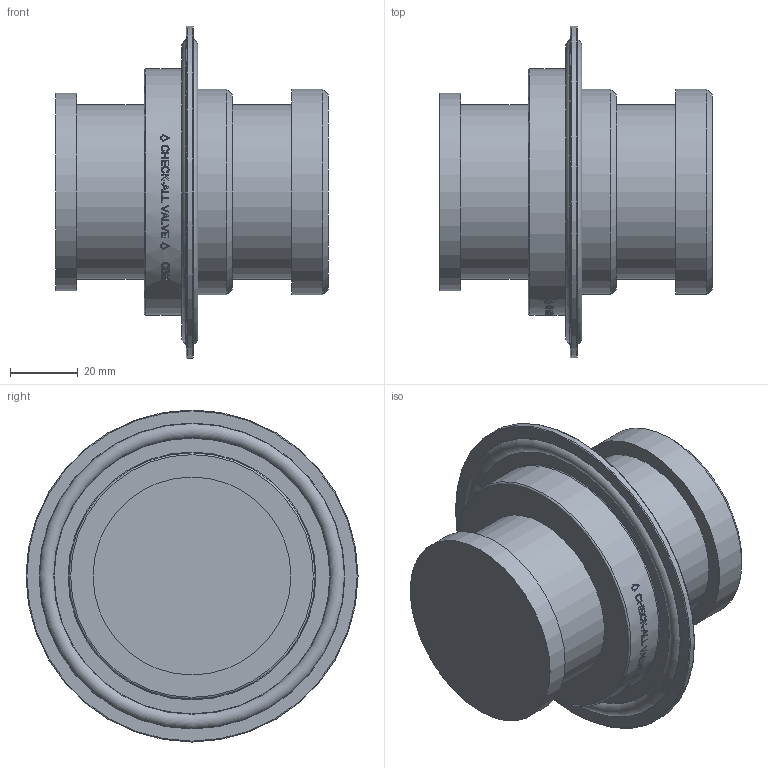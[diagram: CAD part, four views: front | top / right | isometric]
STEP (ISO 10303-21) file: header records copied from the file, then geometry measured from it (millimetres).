
FILE_DESCRIPTION( ( 'Unknown' ), '1' );
FILE_NAME( 'Y:/ENGR/3D Solid Edge Models/CB/Stp/CBM .stp', 'Unknown', ( 'Unknown' ), ( 'Unknown' ), 'PSStep 16.0.42', 'Unknown', ' ' );
FILE_SCHEMA( ( 'AUTOMOTIVE_DESIGN { 1 0 10303 214 1 1 1 1 }' ) );
Length unit declared in the file: millimetre
Products named in the file (1): 1
Bounding box: 80.34 x 97.79 x 97.79 mm (x, y, z)
Volume: 227194.9 mm3; surface area: 32647.6 mm2
Topology: 1 solids, 1 shells, 224 faces, 554 edges, 366 vertices
Faces by surface type: plane 124, bspline 53, cylinder 32, torus 12, cone 3
Full cylindrical faces by diameter (mm): 51.435 x2, 58.293 x1, 60.452 x2, 72.492 x1, 97.79 x1
Entity records: 10196 total; most frequent: CARTESIAN_POINT 4280, ORIENTED_EDGE 1060, EDGE_CURVE 530, B_SPLINE_CURVE_WITH_KNOTS 498, DIRECTION 408, VERTEX_POINT 364, EDGE_LOOP 280, FACE_OUTER_BOUND 243
